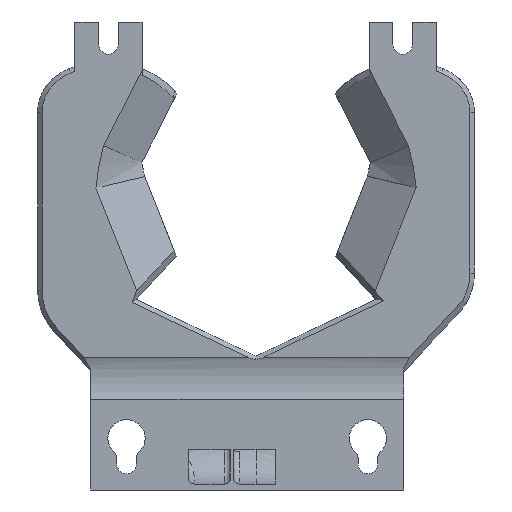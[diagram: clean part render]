
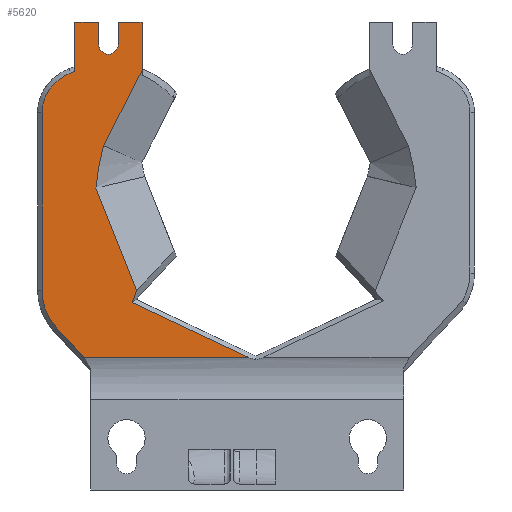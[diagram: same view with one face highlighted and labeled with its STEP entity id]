
A CAD part, left-side view. The second image highlights one B-rep face of the part: STEP entity #5620.
In plain terms, the highlighted planar face has unit normal (-1, 0, 0).
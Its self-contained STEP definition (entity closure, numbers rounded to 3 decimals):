
#282=B_SPLINE_CURVE_WITH_KNOTS('',3,(#7880,#7881,#7882,#7883,#7884,#7885,
#7886,#7887),.UNSPECIFIED.,.F.,.F.,(4,2,2,4),(-0.725,-0.491,
-0.254,0.),.UNSPECIFIED.);
#283=B_SPLINE_CURVE_WITH_KNOTS('',3,(#7905,#7906,#7907,#7908),
 .UNSPECIFIED.,.F.,.F.,(4,4),(-0.105,-0.025),
 .UNSPECIFIED.);
#284=B_SPLINE_CURVE_WITH_KNOTS('',3,(#7910,#7911,#7912,#7913,#7914,#7915,
#7916),.UNSPECIFIED.,.F.,.F.,(4,3,4),(-0.867,-0.372,
0.),.UNSPECIFIED.);
#542=CIRCLE('',#5959,1.65);
#543=CIRCLE('',#5960,9.25);
#673=FACE_OUTER_BOUND('',#1000,.T.);
#1000=EDGE_LOOP('',(#3767,#3768,#3769,#3770,#3771,#3772,#3773,#3774,#3775,
#3776,#3777,#3778,#3779,#3780,#3781,#3782,#3783,#3784));
#1377=LINE('',#7870,#1826);
#1378=LINE('',#7872,#1827);
#1379=LINE('',#7874,#1828);
#1380=LINE('',#7876,#1829);
#1381=LINE('',#7878,#1830);
#1382=LINE('',#7889,#1831);
#1383=LINE('',#7891,#1832);
#1384=LINE('',#7893,#1833);
#1385=LINE('',#7895,#1834);
#1386=LINE('',#7899,#1835);
#1387=LINE('',#7901,#1836);
#1388=LINE('',#7903,#1837);
#1389=LINE('',#7918,#1838);
#1826=VECTOR('',#6437,10.);
#1827=VECTOR('',#6438,10.);
#1828=VECTOR('',#6439,10.);
#1829=VECTOR('',#6440,10.);
#1830=VECTOR('',#6441,10.);
#1831=VECTOR('',#6442,10.);
#1832=VECTOR('',#6443,10.);
#1833=VECTOR('',#6444,10.);
#1834=VECTOR('',#6445,10.);
#1835=VECTOR('',#6448,10.);
#1836=VECTOR('',#6449,10.);
#1837=VECTOR('',#6450,10.);
#1838=VECTOR('',#6451,10.);
#2292=VERTEX_POINT('',#7868);
#2293=VERTEX_POINT('',#7869);
#2294=VERTEX_POINT('',#7871);
#2295=VERTEX_POINT('',#7873);
#2296=VERTEX_POINT('',#7875);
#2297=VERTEX_POINT('',#7877);
#2298=VERTEX_POINT('',#7879);
#2299=VERTEX_POINT('',#7888);
#2300=VERTEX_POINT('',#7890);
#2301=VERTEX_POINT('',#7892);
#2302=VERTEX_POINT('',#7894);
#2303=VERTEX_POINT('',#7896);
#2304=VERTEX_POINT('',#7898);
#2305=VERTEX_POINT('',#7900);
#2306=VERTEX_POINT('',#7902);
#2307=VERTEX_POINT('',#7904);
#2308=VERTEX_POINT('',#7909);
#2309=VERTEX_POINT('',#7917);
#2868=EDGE_CURVE('',#2292,#2293,#1377,.T.);
#2869=EDGE_CURVE('',#2292,#2294,#1378,.T.);
#2870=EDGE_CURVE('',#2295,#2294,#1379,.T.);
#2871=EDGE_CURVE('',#2296,#2295,#1380,.T.);
#2872=EDGE_CURVE('',#2297,#2296,#1381,.T.);
#2873=EDGE_CURVE('',#2298,#2297,#282,.T.);
#2874=EDGE_CURVE('',#2299,#2298,#1382,.T.);
#2875=EDGE_CURVE('',#2300,#2299,#1383,.T.);
#2876=EDGE_CURVE('',#2301,#2300,#1384,.T.);
#2877=EDGE_CURVE('',#2302,#2301,#1385,.T.);
#2878=EDGE_CURVE('',#2303,#2302,#542,.T.);
#2879=EDGE_CURVE('',#2304,#2303,#1386,.T.);
#2880=EDGE_CURVE('',#2305,#2304,#1387,.T.);
#2881=EDGE_CURVE('',#2306,#2305,#1388,.T.);
#2882=EDGE_CURVE('',#2307,#2306,#283,.T.);
#2883=EDGE_CURVE('',#2308,#2307,#284,.T.);
#2884=EDGE_CURVE('',#2309,#2308,#1389,.T.);
#2885=EDGE_CURVE('',#2293,#2309,#543,.T.);
#3767=ORIENTED_EDGE('',*,*,#2868,.F.);
#3768=ORIENTED_EDGE('',*,*,#2869,.T.);
#3769=ORIENTED_EDGE('',*,*,#2870,.F.);
#3770=ORIENTED_EDGE('',*,*,#2871,.F.);
#3771=ORIENTED_EDGE('',*,*,#2872,.F.);
#3772=ORIENTED_EDGE('',*,*,#2873,.F.);
#3773=ORIENTED_EDGE('',*,*,#2874,.F.);
#3774=ORIENTED_EDGE('',*,*,#2875,.F.);
#3775=ORIENTED_EDGE('',*,*,#2876,.F.);
#3776=ORIENTED_EDGE('',*,*,#2877,.F.);
#3777=ORIENTED_EDGE('',*,*,#2878,.F.);
#3778=ORIENTED_EDGE('',*,*,#2879,.F.);
#3779=ORIENTED_EDGE('',*,*,#2880,.F.);
#3780=ORIENTED_EDGE('',*,*,#2881,.F.);
#3781=ORIENTED_EDGE('',*,*,#2882,.F.);
#3782=ORIENTED_EDGE('',*,*,#2883,.F.);
#3783=ORIENTED_EDGE('',*,*,#2884,.F.);
#3784=ORIENTED_EDGE('',*,*,#2885,.F.);
#5492=PLANE('',#5958);
#5620=ADVANCED_FACE('',(#673),#5492,.F.);
#5958=AXIS2_PLACEMENT_3D('',#7867,#6435,#6436);
#5959=AXIS2_PLACEMENT_3D('',#7897,#6446,#6447);
#5960=AXIS2_PLACEMENT_3D('',#7919,#6452,#6453);
#6435=DIRECTION('center_axis',(1.,0.,0.));
#6436=DIRECTION('ref_axis',(0.,0.,1.));
#6437=DIRECTION('',(0.,0.684,0.73));
#6438=DIRECTION('',(0.,-1.,0.));
#6439=DIRECTION('',(0.,-0.904,-0.427));
#6440=DIRECTION('',(0.,0.339,-0.941));
#6441=DIRECTION('',(0.,-0.37,-0.929));
#6442=DIRECTION('',(0.,0.454,-0.891));
#6443=DIRECTION('',(0.,0.,-1.));
#6444=DIRECTION('',(0.,-1.,0.));
#6445=DIRECTION('',(0.,0.,1.));
#6446=DIRECTION('center_axis',(-1.,0.,0.));
#6447=DIRECTION('ref_axis',(0.,1.,0.));
#6448=DIRECTION('',(0.,0.,-1.));
#6449=DIRECTION('',(0.,-1.,0.));
#6450=DIRECTION('',(0.,0.,1.));
#6451=DIRECTION('',(0.,0.,1.));
#6452=DIRECTION('center_axis',(1.,0.,0.));
#6453=DIRECTION('ref_axis',(0.,0.93,-0.368));
#7867=CARTESIAN_POINT('Origin',(-39.86,95.206,-82.));
#7868=CARTESIAN_POINT('',(-39.86,137.484,-57.061));
#7869=CARTESIAN_POINT('',(-39.86,142.093,-52.143));
#7870=CARTESIAN_POINT('',(-39.86,120.963,-74.689));
#7871=CARTESIAN_POINT('',(-39.86,109.945,-57.061));
#7872=CARTESIAN_POINT('',(-39.86,69.561,-57.061));
#7873=CARTESIAN_POINT('',(-39.86,129.459,-47.852));
#7874=CARTESIAN_POINT('',(-39.86,104.979,-59.404));
#7875=CARTESIAN_POINT('',(-39.86,128.722,-45.805));
#7876=CARTESIAN_POINT('',(-39.86,131.541,-53.639));
#7877=CARTESIAN_POINT('',(-39.86,135.556,-28.627));
#7878=CARTESIAN_POINT('',(-39.86,120.852,-65.583));
#7879=CARTESIAN_POINT('',(-39.86,134.275,-21.517));
#7880=CARTESIAN_POINT('Ctrl Pts',(-39.86,134.275,-21.517));
#7881=CARTESIAN_POINT('Ctrl Pts',(-39.86,134.469,-22.27));
#7882=CARTESIAN_POINT('Ctrl Pts',(-39.86,134.653,-23.032));
#7883=CARTESIAN_POINT('Ctrl Pts',(-39.86,134.983,-24.564));
#7884=CARTESIAN_POINT('Ctrl Pts',(-39.86,135.129,-25.336));
#7885=CARTESIAN_POINT('Ctrl Pts',(-39.86,135.384,-26.952));
#7886=CARTESIAN_POINT('Ctrl Pts',(-39.86,135.485,-27.782));
#7887=CARTESIAN_POINT('Ctrl Pts',(-39.86,135.556,-28.627));
#7888=CARTESIAN_POINT('',(-39.86,127.812,-8.838));
#7889=CARTESIAN_POINT('',(-39.86,142.32,-37.299));
#7890=CARTESIAN_POINT('',(-39.86,127.812,-0.768));
#7891=CARTESIAN_POINT('',(-39.86,127.812,-43.257));
#7892=CARTESIAN_POINT('',(-39.86,131.811,-0.768));
#7893=CARTESIAN_POINT('',(-39.86,111.334,-0.768));
#7894=CARTESIAN_POINT('',(-39.86,131.811,-4.515));
#7895=CARTESIAN_POINT('',(-39.86,131.811,-43.257));
#7896=CARTESIAN_POINT('',(-39.86,135.111,-4.515));
#7897=CARTESIAN_POINT('Origin',(-39.86,133.461,-4.515));
#7898=CARTESIAN_POINT('',(-39.86,135.111,-0.768));
#7899=CARTESIAN_POINT('',(-39.86,135.111,-41.384));
#7900=CARTESIAN_POINT('',(-39.86,139.112,-0.768));
#7901=CARTESIAN_POINT('',(-39.86,111.334,-0.768));
#7902=CARTESIAN_POINT('',(-39.86,139.112,-9.056));
#7903=CARTESIAN_POINT('',(-39.86,139.112,-41.007));
#7904=CARTESIAN_POINT('',(-39.86,139.861,-9.337));
#7905=CARTESIAN_POINT('Ctrl Pts',(-39.86,139.861,-9.337));
#7906=CARTESIAN_POINT('Ctrl Pts',(-39.86,139.602,-9.232));
#7907=CARTESIAN_POINT('Ctrl Pts',(-39.86,139.354,-9.139));
#7908=CARTESIAN_POINT('Ctrl Pts',(-39.86,139.112,-9.056));
#7909=CARTESIAN_POINT('',(-39.86,144.594,-15.956));
#7910=CARTESIAN_POINT('Ctrl Pts',(-39.86,144.594,-15.956));
#7911=CARTESIAN_POINT('Ctrl Pts',(-39.86,144.594,-14.324));
#7912=CARTESIAN_POINT('Ctrl Pts',(-39.86,143.962,-12.723));
#7913=CARTESIAN_POINT('Ctrl Pts',(-39.86,142.887,-11.477));
#7914=CARTESIAN_POINT('Ctrl Pts',(-39.86,142.08,-10.543));
#7915=CARTESIAN_POINT('Ctrl Pts',(-39.86,141.024,-9.808));
#7916=CARTESIAN_POINT('Ctrl Pts',(-39.86,139.861,-9.337));
#7917=CARTESIAN_POINT('',(-39.86,144.594,-45.818));
#7918=CARTESIAN_POINT('',(-39.86,144.594,-63.195));
#7919=CARTESIAN_POINT('Origin',(-39.86,135.344,-45.818));
